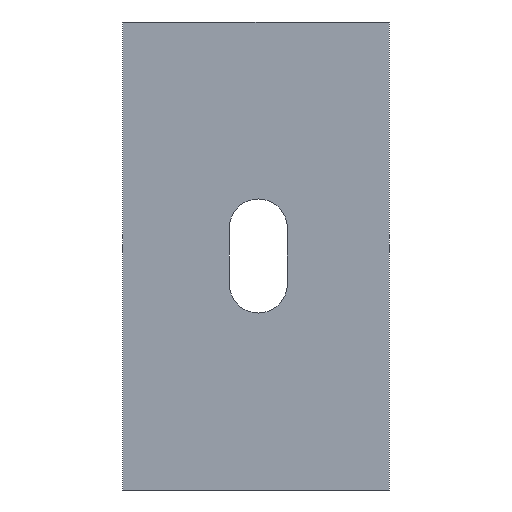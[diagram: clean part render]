
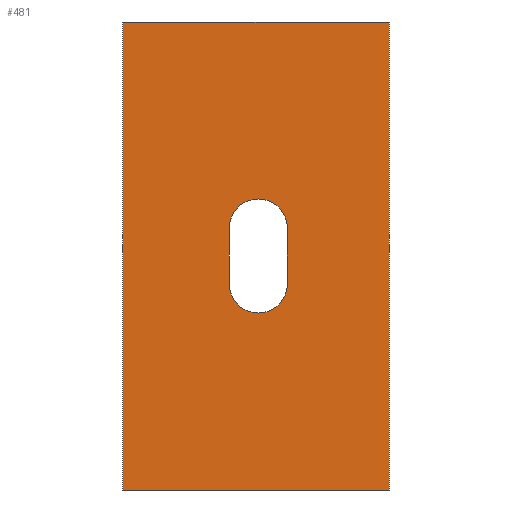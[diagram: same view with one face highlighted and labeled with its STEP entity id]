
A CAD part, front view. The second image highlights one B-rep face of the part: STEP entity #481.
In plain terms, the highlighted planar face has unit normal (0, -1, 0).
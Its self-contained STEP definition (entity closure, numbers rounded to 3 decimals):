
#5=DIRECTION('',(0.,0.,-1.));
#6=VECTOR('',#5,50.);
#7=CARTESIAN_POINT('',(-14.5,-4.4,100.));
#8=LINE('',#7,#6);
#111=DIRECTION('',(0.,0.,-1.));
#112=VECTOR('',#111,6.);
#113=CARTESIAN_POINT('',(-3.097,-4.4,78.));
#114=LINE('',#113,#112);
#115=CARTESIAN_POINT('',(0.,-4.4,72.));
#116=DIRECTION('',(0.,-1.,0.));
#117=DIRECTION('',(-1.,0.,0.));
#118=AXIS2_PLACEMENT_3D('',#115,#116,#117);
#120=DIRECTION('',(0.,0.,1.));
#121=VECTOR('',#120,6.);
#122=CARTESIAN_POINT('',(3.097,-4.4,72.));
#123=LINE('',#122,#121);
#124=CARTESIAN_POINT('',(0.,-4.4,78.));
#125=DIRECTION('',(0.,-1.,0.));
#126=DIRECTION('',(1.,0.,0.));
#127=AXIS2_PLACEMENT_3D('',#124,#125,#126);
#129=DIRECTION('',(1.,0.,0.));
#130=VECTOR('',#129,28.5);
#131=CARTESIAN_POINT('',(-14.5,-4.4,100.));
#132=LINE('',#131,#130);
#133=DIRECTION('',(0.,0.,-1.));
#134=VECTOR('',#133,50.);
#135=CARTESIAN_POINT('',(14.,-4.4,100.));
#136=LINE('',#135,#134);
#137=DIRECTION('',(1.,0.,0.));
#138=VECTOR('',#137,28.5);
#139=CARTESIAN_POINT('',(-14.5,-4.4,50.));
#140=LINE('',#139,#138);
#209=CARTESIAN_POINT('',(-3.097,-4.4,78.));
#210=CARTESIAN_POINT('',(-3.097,-4.4,72.));
#211=VERTEX_POINT('',#209);
#212=VERTEX_POINT('',#210);
#213=CARTESIAN_POINT('',(3.097,-4.4,72.));
#214=VERTEX_POINT('',#213);
#215=CARTESIAN_POINT('',(3.097,-4.4,78.));
#216=VERTEX_POINT('',#215);
#234=CARTESIAN_POINT('',(-14.5,-4.4,100.));
#236=VERTEX_POINT('',#234);
#238=CARTESIAN_POINT('',(-14.5,-4.4,50.));
#240=VERTEX_POINT('',#238);
#257=CARTESIAN_POINT('',(14.,-4.4,100.));
#259=VERTEX_POINT('',#257);
#261=CARTESIAN_POINT('',(14.,-4.4,50.));
#263=VERTEX_POINT('',#261);
#462=CARTESIAN_POINT('',(-14.5,-4.4,0.));
#463=DIRECTION('',(0.,-1.,0.));
#464=DIRECTION('',(1.,0.,0.));
#465=AXIS2_PLACEMENT_3D('',#462,#463,#464);
#466=PLANE('',#465);
#467=ORIENTED_EDGE('',*,*,#299,.T.);
#469=ORIENTED_EDGE('',*,*,#468,.T.);
#471=ORIENTED_EDGE('',*,*,#470,.F.);
#472=ORIENTED_EDGE('',*,*,#272,.F.);
#473=EDGE_LOOP('',(#467,#469,#471,#472));
#474=FACE_OUTER_BOUND('',#473,.F.);
#475=ORIENTED_EDGE('',*,*,#414,.T.);
#476=ORIENTED_EDGE('',*,*,#429,.T.);
#477=ORIENTED_EDGE('',*,*,#443,.T.);
#478=ORIENTED_EDGE('',*,*,#456,.T.);
#479=EDGE_LOOP('',(#475,#476,#477,#478));
#480=FACE_BOUND('',#479,.F.);
#481=ADVANCED_FACE('',(#474,#480),#466,.T.);
#119=CIRCLE('',#118,3.097);
#128=CIRCLE('',#127,3.097);
#272=EDGE_CURVE('',#236,#240,#8,.T.);
#299=EDGE_CURVE('',#236,#259,#132,.T.);
#414=EDGE_CURVE('',#211,#212,#114,.T.);
#429=EDGE_CURVE('',#212,#214,#119,.T.);
#443=EDGE_CURVE('',#214,#216,#123,.T.);
#456=EDGE_CURVE('',#216,#211,#128,.T.);
#468=EDGE_CURVE('',#259,#263,#136,.T.);
#470=EDGE_CURVE('',#240,#263,#140,.T.);
